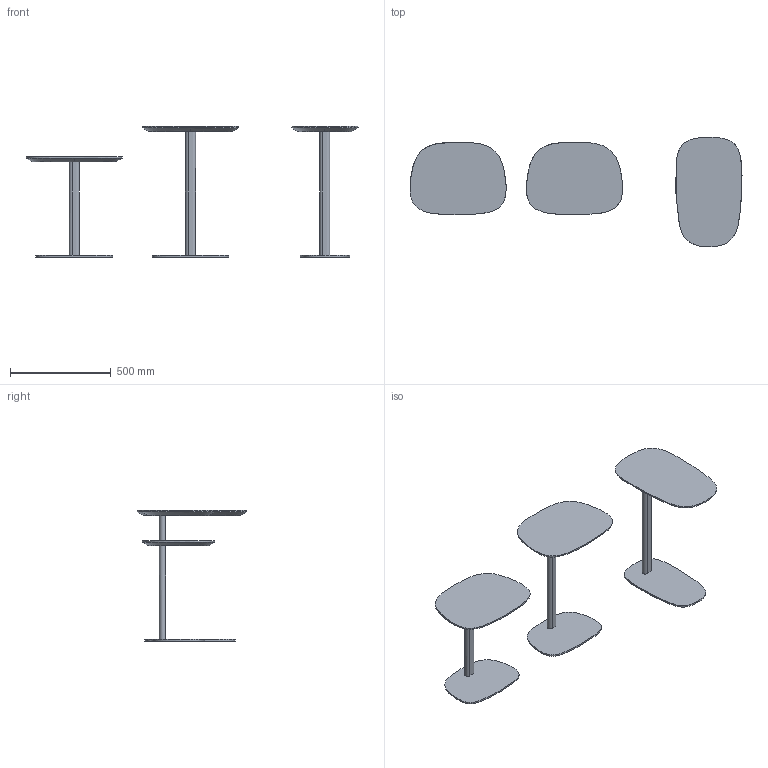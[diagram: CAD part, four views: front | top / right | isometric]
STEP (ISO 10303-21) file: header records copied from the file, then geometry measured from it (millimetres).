
FILE_DESCRIPTION(/* description */ (''),/* implementation_level */ '2;1');
FILE_NAME(/* name */ 'pato对称',/* time_stamp */ '2024-06-26T17:14:28+08:00',/* author */ (''),/* organization */ (''),/* preprocessor_version */ 'ST-DEVELOPER v16.5',/* originating_system */ '',/* authorisation */ '');
FILE_SCHEMA (('CONFIG_CONTROL_DESIGN'));
Length unit declared in the file: millimetre
Products named in the file (1): Document
Bounding box: 1647.14 x 544 x 650 mm (x, y, z)
Volume: 14676942.1 mm3; surface area: 2054466 mm2
Topology: 49 solids, 49 shells, 234 faces, 372 edges, 242 vertices
Faces by surface type: plane 110, cylinder 74, bspline 50
Entity records: 10950 total; most frequent: CARTESIAN_POINT 7950, ORIENTED_EDGE 744, EDGE_CURVE 372, VERTEX_POINT 242, EDGE_LOOP 240, ADVANCED_FACE 234, FACE_OUTER_BOUND 234, DIRECTION 188
